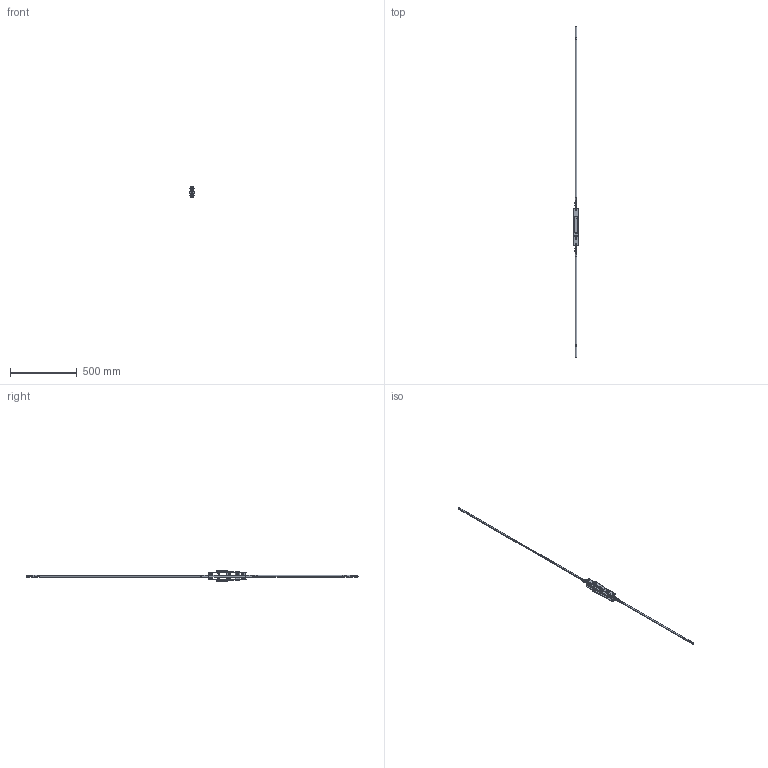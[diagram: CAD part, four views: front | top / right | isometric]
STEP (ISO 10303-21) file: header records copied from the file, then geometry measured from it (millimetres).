
FILE_DESCRIPTION (( 'STEP AP214' ), '1' );
FILE_NAME ('TPL-H-APC-106-C 17Oct2024.STEP', '2024-10-17T04:39:07', ( '' ), ( '' ), 'SwSTEP 2.0', 'SolidWorks 2023', '' );
FILE_SCHEMA (( 'AUTOMOTIVE_DESIGN' ));
Length unit declared in the file: millimetre
Products named in the file (23): TPL-H-APC-106-C 17Oct2024; Copy of LKC-585 Rotator body zinc^Copy of TPGen2 handle keyed external zinc - simplified_TPL-H-APC-608 16Oct2024; Copy of LKC-585 Rotator body zinc^Copy (2) of TPGen2 handle keyed internal zinc - simplified_TPL-H-APC-608 16Oct2024; Copy of TPGen2 handle keyed external zinc - simplified^TPL-H-APC-608 16Oct2024_Vertical; Copy of LKC-586 Spindle square 8mm with M4 hole^Copy (2) of TPGen2 handle keyed internal zinc - simplified_TPL-H-APC-608 16Oct2024_46mm; Copy (2) of TPGen2 handle keyed internal zinc - simplified^TPL-H-APC-608 16Oct2024_Vertical; Copy of TPLGen2 lock body keyed^Copy (2) of TPLGen2 lock body keyed assembly_TPL-H-APC-608 16Oct2024_Left; Copy (2) of TPL-H-APC-515 04Oct2024^TPL-H-APC-608 16Oct2024; Copy (2) of TPLGen2 lock body keyed assembly^TPL-H-APC-608 16Oct2024_Bolts extended - left; Copy of TPL-H-APC-516 04Oct2024^TPL-H-APC-608 16Oct2024; Copy of TPL-021 Lock cylinder double key C4 5 pin 62 (30-32)mm^TPL-H-APC-608 16Oct2024_Right; Copy of LKC-505 Swing handle zinc - simplified^Copy of TPGen2 handle keyed external zinc - simplified_TPL-H-APC-608 16Oct2024; Copy of LKC-532 Rod connector - simplified^TPL-H-APC-608 16Oct2024; Copy of LKC-540 Transmission rod aluminium system TPLGen2^TPL-H-APC-608 16Oct2024_2885mm; Copy of LKC-514 Escutcheon plate keyed external 285mm long zinc - simplified^Copy of TPGen2 handle keyed external zinc - simplified_TPL-H-APC-608 16Oct2024; Copy of LKC-584 Pivot body zinc - simplified^Copy (2) of TPGen2 handle keyed internal zinc - simplified_TPL-H-APC-608 16Oct2024; Copy of LKC-512 Escutcheon plate keyed internal 285mm long zinc - simplified^Copy (2) of TPGen2 handle keyed internal zinc - simplified_TPL-H-APC-608 16Oct2024; Copy of TPLGen2 push rod - simplified^Copy (2) of TPLGen2 lock body keyed assembly_TPL-H-APC-608 16Oct2024_Female thread M10; Copy (2) of LKC-540 Transmission rod aluminium system TPLGen2^TPL-H-APC-608 16Oct2024_2885mm; Copy of LKC-576 Bolt adaptor - simplified^TPL-H-APC-608 16Oct2024; Copy of LKC-505 Swing handle zinc - simplified^Copy (2) of TPGen2 handle keyed internal zinc - simplified_TPL-H-APC-608 16Oct2024; Copy of TPL-H-APC-517 04Oct2024^TPL-H-APC-608 16Oct2024; Copy of LKC-584 Pivot body zinc - simplified^Copy of TPGen2 handle keyed external zinc - simplified_TPL-H-APC-608 16Oct2024
Assembly tree (30 placements, depth 3):
  TPL-H-APC-106-C 17Oct2024
    Copy (2) of TPLGen2 lock body keyed assembly^TPL-H-APC-608 16Oct2024_Bolts extended - left
      Copy of TPLGen2 lock body keyed^Copy (2) of TPLGen2 lock body keyed assembly_TPL-H-APC-608 16Oct2024_Left
      Copy of TPLGen2 push rod - simplified^Copy (2) of TPLGen2 lock body keyed assembly_TPL-H-APC-608 16Oct2024_Female thread M10  x2
    Copy (2) of TPGen2 handle keyed internal zinc - simplified^TPL-H-APC-608 16Oct2024_Vertical
      Copy of LKC-512 Escutcheon plate keyed internal 285mm long zinc - simplified^Copy (2) of TPGen2 handle keyed internal zinc - simplified_TPL-H-APC-608 16Oct2024
      Copy of LKC-505 Swing handle zinc - simplified^Copy (2) of TPGen2 handle keyed internal zinc - simplified_TPL-H-APC-608 16Oct2024
      Copy of LKC-585 Rotator body zinc^Copy (2) of TPGen2 handle keyed internal zinc - simplified_TPL-H-APC-608 16Oct2024
      Copy of LKC-586 Spindle square 8mm with M4 hole^Copy (2) of TPGen2 handle keyed internal zinc - simplified_TPL-H-APC-608 16Oct2024_46mm
      Copy of LKC-584 Pivot body zinc - simplified^Copy (2) of TPGen2 handle keyed internal zinc - simplified_TPL-H-APC-608 16Oct2024
    Copy of TPGen2 handle keyed external zinc - simplified^TPL-H-APC-608 16Oct2024_Vertical
      Copy of LKC-514 Escutcheon plate keyed external 285mm long zinc - simplified^Copy of TPGen2 handle keyed external zinc - simplified_TPL-H-APC-608 16Oct2024
      Copy of LKC-505 Swing handle zinc - simplified^Copy of TPGen2 handle keyed external zinc - simplified_TPL-H-APC-608 16Oct2024
      Copy of LKC-585 Rotator body zinc^Copy of TPGen2 handle keyed external zinc - simplified_TPL-H-APC-608 16Oct2024
      Copy of LKC-584 Pivot body zinc - simplified^Copy of TPGen2 handle keyed external zinc - simplified_TPL-H-APC-608 16Oct2024
    Copy of TPL-021 Lock cylinder double key C4 5 pin 62 (30-32)mm^TPL-H-APC-608 16Oct2024_Right
    Copy of LKC-532 Rod connector - simplified^TPL-H-APC-608 16Oct2024  x2
    Copy of LKC-540 Transmission rod aluminium system TPLGen2^TPL-H-APC-608 16Oct2024_2885mm
    Copy (2) of LKC-540 Transmission rod aluminium system TPLGen2^TPL-H-APC-608 16Oct2024_2885mm
    Copy of LKC-576 Bolt adaptor - simplified^TPL-H-APC-608 16Oct2024  x2
    Copy of TPL-H-APC-517 04Oct2024^TPL-H-APC-608 16Oct2024  x2
    Copy of TPL-H-APC-516 04Oct2024^TPL-H-APC-608 16Oct2024  x3
    Copy (2) of TPL-H-APC-515 04Oct2024^TPL-H-APC-608 16Oct2024  x3
Bounding box: 35 x 2490 x 76.92 mm (x, y, z)
Volume: 414247.4 mm3; surface area: 271343.7 mm2
Topology: 27 solids, 27 shells, 2258 faces, 5473 edges, 3298 vertices
Faces by surface type: cylinder 704, plane 632, bspline 448, torus 228, cone 184, sphere 62
Entity records: 57834 total; most frequent: CARTESIAN_POINT 24643, ORIENTED_EDGE 7158, DIRECTION 6389, EDGE_CURVE 3579, AXIS2_PLACEMENT_3D 2561, VERTEX_POINT 2163, EDGE_LOOP 1656, FACE_OUTER_BOUND 1514
